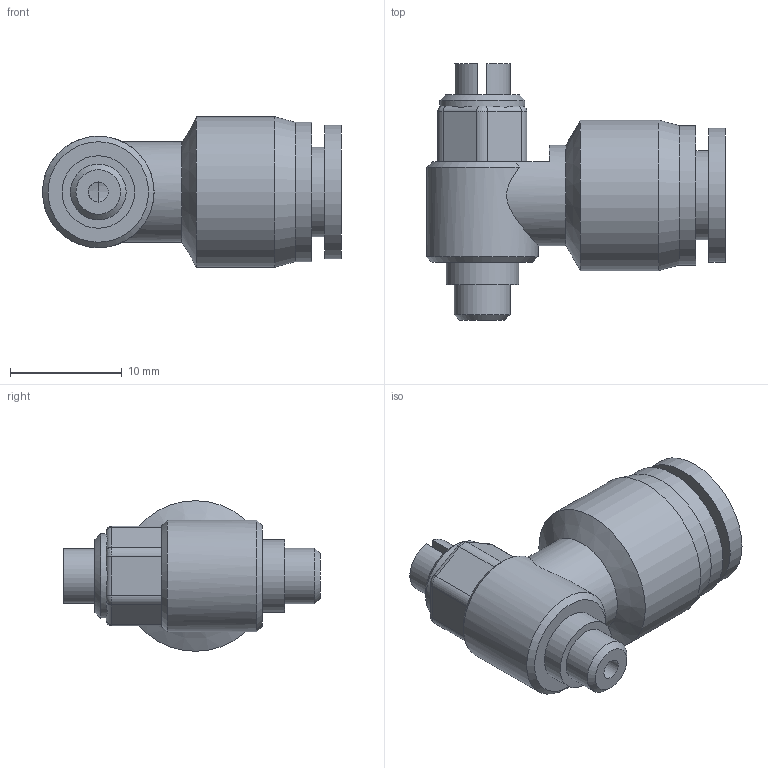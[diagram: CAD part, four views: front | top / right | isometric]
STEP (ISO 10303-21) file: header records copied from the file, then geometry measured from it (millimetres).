
FILE_DESCRIPTION((''),'2;1');
FILE_NAME('S:\UTecnico\ArchivioUT\Speciali Clienti\Speciali KONFIT\DISEGNI 3D\DP\DP 79\DP79CM506.stp','2013-04-23T14:01:08',('UT5'),(''),'Autodesk Inventor 2013','Autodesk Inventor 2013','');
FILE_SCHEMA(('AUTOMOTIVE_DESIGN { 1 0 10303 214 1 1 1 1 }'));
Length unit declared in the file: millimetre
Products named in the file (1): DP79CM506
Bounding box: 26.8 x 23 x 13.5 mm (x, y, z)
Surface area: 2086.6 mm2 (no closed solid volume)
Topology: 0 solids, 1 shells, 63 faces, 152 edges, 94 vertices
Faces by surface type: cylinder 25, plane 25, cone 7, bspline 4, torus 2
Full cylindrical faces by diameter (mm): 1.8 x1, 5 x1, 6 x1, 6.5 x1, 7.6 x1, 8 x1, 9 x1, 10 x1, 12 x1, 12.5 x1, 13.5 x1
Entity records: 1979 total; most frequent: CARTESIAN_POINT 552, DIRECTION 299, ORIENTED_EDGE 252, EDGE_CURVE 126, AXIS2_PLACEMENT_3D 124, EDGE_LOOP 88, VERTEX_POINT 86, CIRCLE 64
